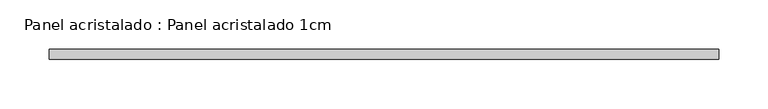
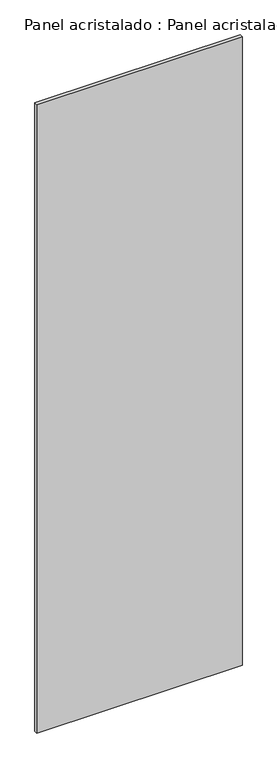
"""IFC4 building model written with IfcOpenShell, lengths in millimetres: plate geometry, Panel acristalado : Panel acristalado 1cm."""

from ifc_helpers import new_model, si_unit, origin, origin_with_axes, place, context, project, spatial, polyline, outline, extrude, source, transform, mapped, element, save


def panel_acristalado_panel_acristalado_1cm_0bcb4719(model_context):
    return source(origin(), model_context, "Body", "SweptSolid", [
        extrude(outline(polyline([(340.0, -20.0), (340.0, -30.0), (-340.0, -30.0), (-340.0, -20.0), (340.0, -20.0)])), origin_with_axes(), (0.0, 0.0, 1.0), 2200.0),
    ])


if __name__ == "__main__":
    model = new_model("IFC4")
    model_context = context("Model", 3, world=origin())
    ifc_project = project(units=[si_unit("LENGTHUNIT", "METRE", prefix="MILLI")], contexts=[model_context])
    site = spatial("IfcSite", under=ifc_project)
    building = spatial("IfcBuilding", under=site)
    placement = place(None, origin())
    panel_acristalado_panel_acristalado_1cm_shape = panel_acristalado_panel_acristalado_1cm_0bcb4719(model_context)
    element("IfcPlate", 1, ObjectType="Panel acristalado : Panel acristalado 1cm", at=placement, inside=building, context=model_context, shape_type="MappedRepresentation", body=[
        mapped(panel_acristalado_panel_acristalado_1cm_shape, transform((0.0, 0.0, 0.0), x_axis=(1.0, 0.0, 0.0), y_axis=(0.0, 1.0, 0.0), z_axis=(0.0, 0.0, 1.0))),
    ])
    save(model, "model.ifc")
